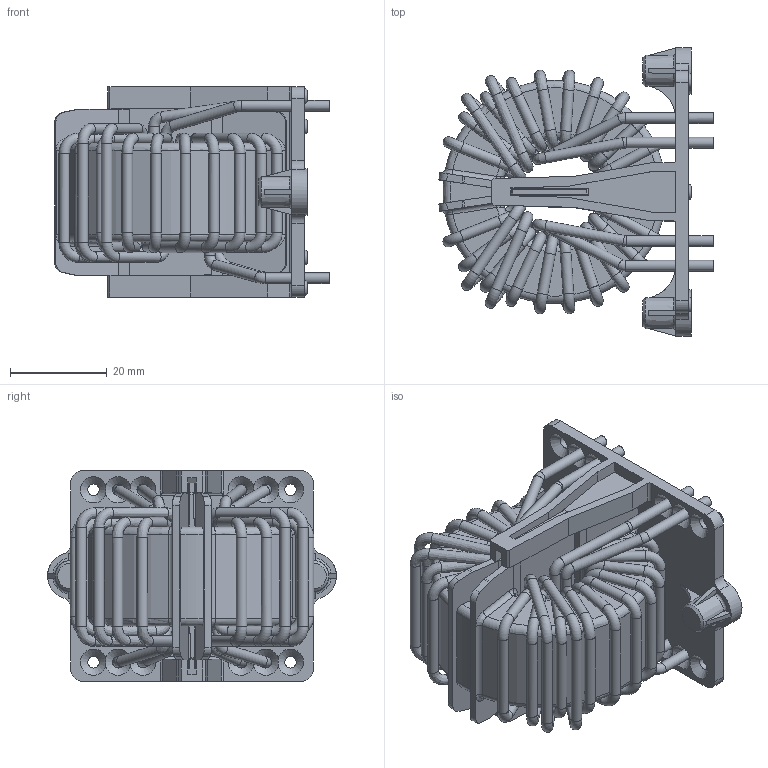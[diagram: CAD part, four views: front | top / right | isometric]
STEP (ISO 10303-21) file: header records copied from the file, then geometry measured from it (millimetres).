
FILE_DESCRIPTION((''),'2;1');
FILE_NAME('K:\Development\Projects\RB\Angel_standard choke series 2011\70_Realization_Revision\702_MechanicalDesign\Drawing for Harald\RB6522\RB6522-36-0M5.stp','2012-11-16T15:19:42',('BIN.FAN'),(''),'Autodesk Inventor 2010','Autodesk Inventor 2010','');
FILE_SCHEMA(('AUTOMOTIVE_DESIGN { 1 0 10303 214 1 1 1 1 }'));
Length unit declared in the file: millimetre
Products named in the file (1): RB6522-36-0M5  for customer_包覆面提取_1
Bounding box: 56.57 x 59.58 x 43.4 mm (x, y, z)
Volume: 43979.7 mm3; surface area: 32508.4 mm2
Topology: 1 solids, 1 shells, 1014 faces, 2953 edges, 1875 vertices
Faces by surface type: plane 424, bspline 225, cylinder 212, torus 115, cone 38
Full cylindrical faces by diameter (mm): 2.2 x46, 2.4 x12, 3 x6, 9.6 x2
Entity records: 41132 total; most frequent: CARTESIAN_POINT 16721, ORIENTED_EDGE 5042, DIRECTION 4345, EDGE_CURVE 2521, VERTEX_POINT 1690, AXIS2_PLACEMENT_3D 1545, EDGE_LOOP 1299, VECTOR 1255
